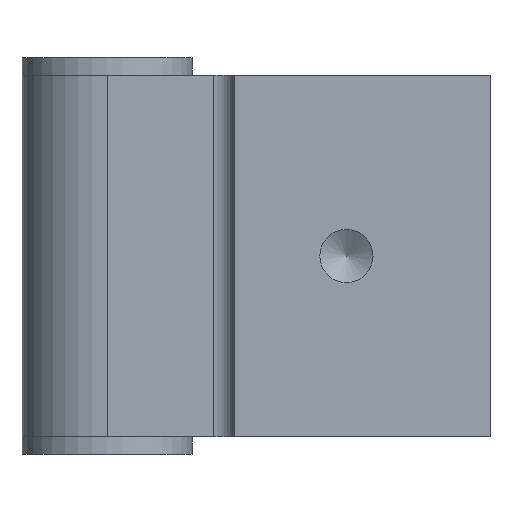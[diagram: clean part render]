
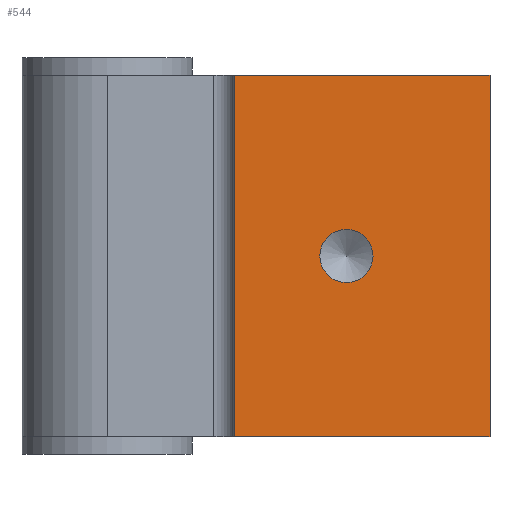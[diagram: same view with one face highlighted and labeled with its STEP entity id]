
A CAD part, front view. The second image highlights one B-rep face of the part: STEP entity #544.
In plain terms, the highlighted planar face has unit normal (0, -1, 0).
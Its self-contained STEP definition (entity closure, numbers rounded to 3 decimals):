
#6 = CARTESIAN_POINT ( 'NONE',  ( 12., -18., 17. ) ) ;
#25 = ORIENTED_EDGE ( 'NONE', *, *, #146, .F. ) ;
#36 = CIRCLE ( 'NONE', #317, 2.5 ) ;
#45 = CARTESIAN_POINT ( 'NONE',  ( 12., -18., -17. ) ) ;
#47 = AXIS2_PLACEMENT_3D ( 'NONE', #186, #471, #755 ) ;
#50 = CARTESIAN_POINT ( 'NONE',  ( 22.5, -18., -2.5 ) ) ;
#123 = FACE_BOUND ( 'NONE', #805, .T. ) ;
#146 = EDGE_CURVE ( 'NONE', #782, #348, #383, .T. ) ;
#186 = CARTESIAN_POINT ( 'NONE',  ( 36., -18., 17. ) ) ;
#210 = CARTESIAN_POINT ( 'NONE',  ( 36., -18., -17. ) ) ;
#248 = VECTOR ( 'NONE', #828, 1000. ) ;
#275 = LINE ( 'NONE', #705, #893 ) ;
#283 = DIRECTION ( 'NONE',  ( 1., 0., 0. ) ) ;
#307 = LINE ( 'NONE', #591, #412 ) ;
#309 = ORIENTED_EDGE ( 'NONE', *, *, #443, .F. ) ;
#317 = AXIS2_PLACEMENT_3D ( 'NONE', #895, #476, #748 ) ;
#348 = VERTEX_POINT ( 'NONE', #210 ) ;
#368 = CARTESIAN_POINT ( 'NONE',  ( 36., -18., 17. ) ) ;
#369 = DIRECTION ( 'NONE',  ( 1., 0., 0. ) ) ;
#383 = LINE ( 'NONE', #882, #248 ) ;
#400 = VERTEX_POINT ( 'NONE', #674 ) ;
#412 = VECTOR ( 'NONE', #369, 1000. ) ;
#443 = EDGE_CURVE ( 'NONE', #400, #782, #307, .T. ) ;
#471 = DIRECTION ( 'NONE',  ( 0., 1., 0. ) ) ;
#476 = DIRECTION ( 'NONE',  ( 0., -1., 0. ) ) ;
#481 = VERTEX_POINT ( 'NONE', #45 ) ;
#487 = EDGE_CURVE ( 'NONE', #673, #673, #36, .T. ) ;
#517 = EDGE_LOOP ( 'NONE', ( #593, #25, #309, #681 ) ) ;
#542 = FACE_OUTER_BOUND ( 'NONE', #517, .T. ) ;
#544 = ADVANCED_FACE ( 'NONE', ( #123, #542 ), #827, .F. ) ;
#554 = DIRECTION ( 'NONE',  ( 0., 0., -1. ) ) ;
#591 = CARTESIAN_POINT ( 'NONE',  ( 36., -18., 17. ) ) ;
#593 = ORIENTED_EDGE ( 'NONE', *, *, #632, .T. ) ;
#603 = EDGE_CURVE ( 'NONE', #400, #481, #777, .T. ) ;
#632 = EDGE_CURVE ( 'NONE', #481, #348, #275, .T. ) ;
#673 = VERTEX_POINT ( 'NONE', #50 ) ;
#674 = CARTESIAN_POINT ( 'NONE',  ( 12., -18., 17. ) ) ;
#681 = ORIENTED_EDGE ( 'NONE', *, *, #603, .T. ) ;
#705 = CARTESIAN_POINT ( 'NONE',  ( 36., -18., -17. ) ) ;
#747 = VECTOR ( 'NONE', #554, 1000. ) ;
#748 = DIRECTION ( 'NONE',  ( 0., 0., -1. ) ) ;
#755 = DIRECTION ( 'NONE',  ( -1., 0., 0. ) ) ;
#776 = ORIENTED_EDGE ( 'NONE', *, *, #487, .F. ) ;
#777 = LINE ( 'NONE', #6, #747 ) ;
#782 = VERTEX_POINT ( 'NONE', #368 ) ;
#805 = EDGE_LOOP ( 'NONE', ( #776 ) ) ;
#827 = PLANE ( 'NONE',  #47 ) ;
#828 = DIRECTION ( 'NONE',  ( 0., 0., -1. ) ) ;
#882 = CARTESIAN_POINT ( 'NONE',  ( 36., -18., 17. ) ) ;
#893 = VECTOR ( 'NONE', #283, 1000. ) ;
#895 = CARTESIAN_POINT ( 'NONE',  ( 22.5, -18., 0. ) ) ;
